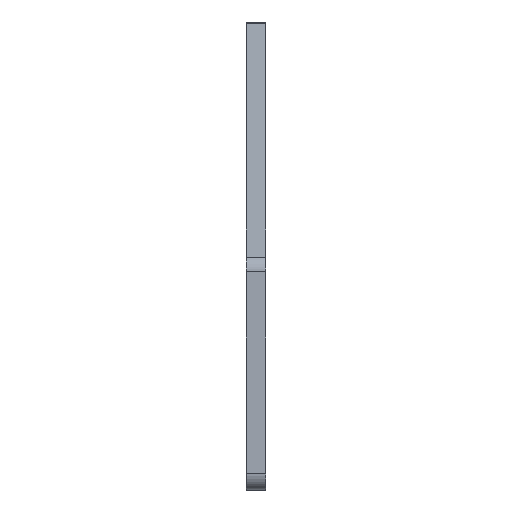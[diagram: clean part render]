
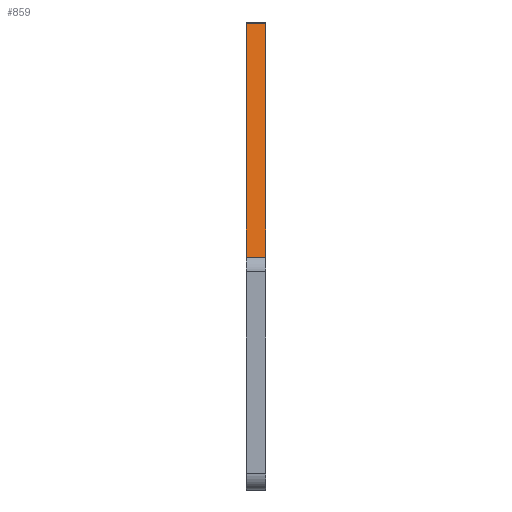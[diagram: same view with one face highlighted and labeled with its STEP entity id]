
A CAD part, left-side view. The second image highlights one B-rep face of the part: STEP entity #859.
In plain terms, the highlighted planar face has unit normal (-0.447, 0, 0.894).
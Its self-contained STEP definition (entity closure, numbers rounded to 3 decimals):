
#26 = EDGE_CURVE ( 'NONE', #329, #793, #76, .T. ) ;
#68 = DIRECTION ( 'NONE',  ( -0.894, 0., -0.447 ) ) ;
#71 = EDGE_LOOP ( 'NONE', ( #706, #170, #747, #526 ) ) ;
#74 = LINE ( 'NONE', #588, #780 ) ;
#76 = LINE ( 'NONE', #573, #821 ) ;
#112 = VERTEX_POINT ( 'NONE', #483 ) ;
#170 = ORIENTED_EDGE ( 'NONE', *, *, #176, .F. ) ;
#176 = EDGE_CURVE ( 'NONE', #112, #329, #425, .T. ) ;
#177 = CARTESIAN_POINT ( 'NONE',  ( -122.115, 4., 24.787 ) ) ;
#257 = FACE_OUTER_BOUND ( 'NONE', #71, .T. ) ;
#277 = VECTOR ( 'NONE', #854, 1000. ) ;
#287 = CARTESIAN_POINT ( 'NONE',  ( -122.115, 0., 24.787 ) ) ;
#329 = VERTEX_POINT ( 'NONE', #627 ) ;
#380 = LINE ( 'NONE', #177, #535 ) ;
#383 = DIRECTION ( 'NONE',  ( -0.447, 0., 0.894 ) ) ;
#420 = EDGE_CURVE ( 'NONE', #112, #583, #74, .T. ) ;
#421 = CARTESIAN_POINT ( 'NONE',  ( -26.4, 4., 72.645 ) ) ;
#425 = LINE ( 'NONE', #421, #277 ) ;
#483 = CARTESIAN_POINT ( 'NONE',  ( -26.4, 4., 72.645 ) ) ;
#526 = ORIENTED_EDGE ( 'NONE', *, *, #597, .T. ) ;
#535 = VECTOR ( 'NONE', #757, 1000. ) ;
#550 = CARTESIAN_POINT ( 'NONE',  ( -122.115, 4., 24.787 ) ) ;
#573 = CARTESIAN_POINT ( 'NONE',  ( -26.4, 0., 72.645 ) ) ;
#583 = VERTEX_POINT ( 'NONE', #550 ) ;
#588 = CARTESIAN_POINT ( 'NONE',  ( -26.4, 4., 72.645 ) ) ;
#597 = EDGE_CURVE ( 'NONE', #583, #793, #380, .T. ) ;
#627 = CARTESIAN_POINT ( 'NONE',  ( -26.4, 0., 72.645 ) ) ;
#669 = PLANE ( 'NONE',  #850 ) ;
#706 = ORIENTED_EDGE ( 'NONE', *, *, #26, .F. ) ;
#715 = DIRECTION ( 'NONE',  ( -0.894, 0., -0.447 ) ) ;
#743 = CARTESIAN_POINT ( 'NONE',  ( -26.4, 4., 72.645 ) ) ;
#747 = ORIENTED_EDGE ( 'NONE', *, *, #420, .T. ) ;
#757 = DIRECTION ( 'NONE',  ( 0., -1., 0. ) ) ;
#780 = VECTOR ( 'NONE', #68, 1000. ) ;
#793 = VERTEX_POINT ( 'NONE', #287 ) ;
#821 = VECTOR ( 'NONE', #715, 1000. ) ;
#850 = AXIS2_PLACEMENT_3D ( 'NONE', #743, #383, #897 ) ;
#854 = DIRECTION ( 'NONE',  ( 0., -1., 0. ) ) ;
#859 = ADVANCED_FACE ( 'NONE', ( #257 ), #669, .T. ) ;
#897 = DIRECTION ( 'NONE',  ( 0.894, 0., 0.447 ) ) ;
